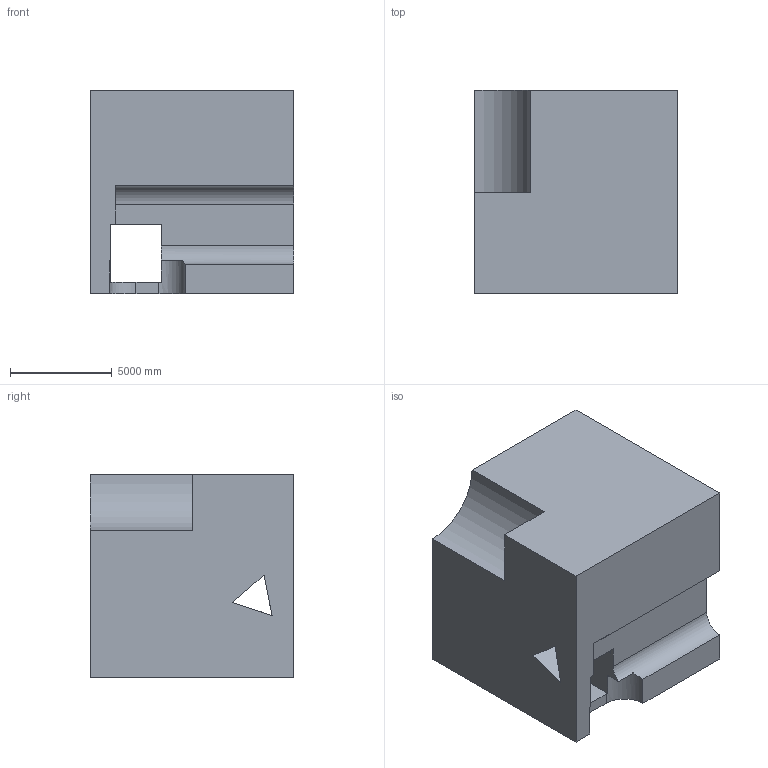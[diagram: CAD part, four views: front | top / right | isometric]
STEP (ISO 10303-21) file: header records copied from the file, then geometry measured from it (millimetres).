
FILE_DESCRIPTION (( 'STEP AP203' ), '1' );
FILE_NAME ('1576.STEP', '2022-08-18T15:54:20', ( 'user' ), ( '' ), 'SwSTEP 2.0', 'SolidWorks 2021', '' );
FILE_SCHEMA (( 'CONFIG_CONTROL_DESIGN' ));
Length unit declared in the file: centimetre
Products named in the file (1): 1576
Bounding box: 10000 x 10000 x 10000 mm (x, y, z)
Volume: 843537724678.5 mm3; surface area: 752223802.5 mm2
Topology: 1 solids, 1 shells, 29 faces, 87 edges, 58 vertices
Faces by surface type: plane 22, cylinder 7
Entity records: 1091 total; most frequent: CARTESIAN_POINT 202, ORIENTED_EDGE 174, DIRECTION 162, EDGE_CURVE 87, LINE 70, VECTOR 70, VERTEX_POINT 58, AXIS2_PLACEMENT_3D 46
